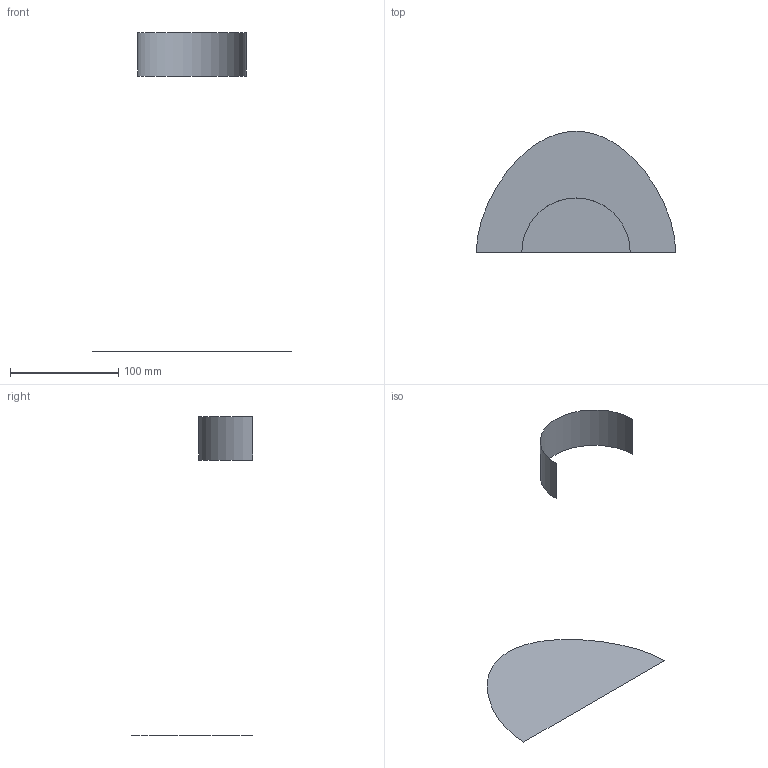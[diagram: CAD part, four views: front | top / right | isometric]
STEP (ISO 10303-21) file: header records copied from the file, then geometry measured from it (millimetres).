
FILE_DESCRIPTION(('CATIA V5 STEP Exchange'),'2;1');
FILE_NAME('C:\_Andres\UNIVERSIDAD\IQS\ASIGNATURAS\DAO\Controles\1617\c1\1original\Barrenechea_Bonifacio_Ej00-base_v2.stp','2017-02-06T16:27:31+00:00',('none'),('none'),'CATIA Version 5-6 Release 2014 SP1 HF18','CATIA V5 STEP AP203','none');
FILE_SCHEMA(('CONFIG_CONTROL_DESIGN'));
Length unit declared in the file: millimetre
Products named in the file (1): Barrenechea_Bonifacio_Ej00-base_v2
Bounding box: 184 x 112 x 294 mm (x, y, z)
Surface area: 21820.9 mm2 (no closed solid volume)
Topology: 0 solids, 2 shells, 2 faces, 16 edges, 26 vertices
Faces by surface type: cylinder 1, plane 1
Entity records: 230 total; most frequent: CARTESIAN_POINT 78, DIRECTION 16, COMPOSITE_CURVE_SEGMENT 9, TRIMMED_CURVE 9, AXIS2_PLACEMENT_3D 8, COMPOSITE_CURVE 7, ORIENTED_EDGE 7, EDGE_CURVE 7
